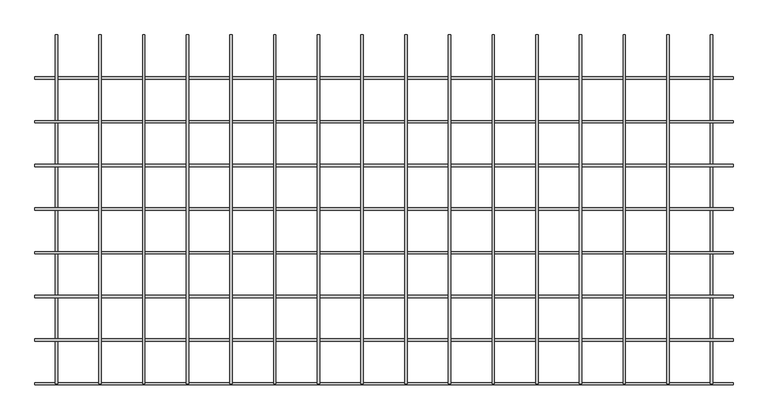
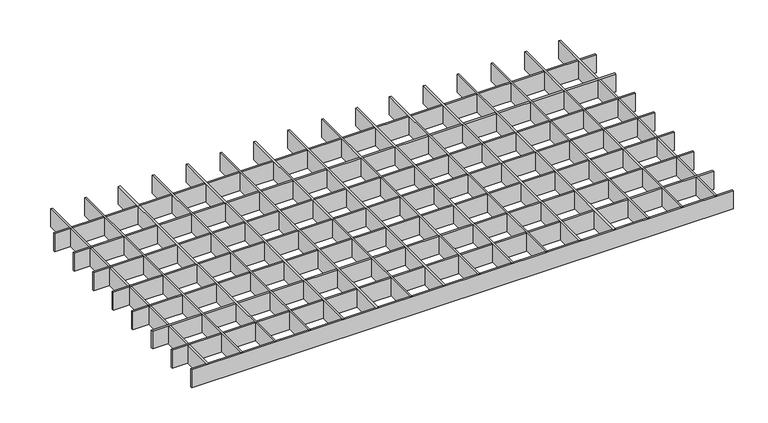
"""IFC4 building model written with IfcOpenShell, lengths in millimetres: proxy geometry, durlum_GEO_panel : durlum_GEO_4."""

from ifc_helpers import new_model, si_unit, origin, origin_with_axes, place, context, project, spatial, polyline, outline, extrude, source, transform, mapped, element, save


def generic_models_99cc4506(model_context):
    return source(origin(), model_context, "Body", "SweptSolid", [
        extrude(outline(polyline([(485.5, 299.5), (489.5, 299.5), (489.5, -299.5), (485.5, -299.5), (485.5, 299.5)])), origin_with_axes(), (0.0, 0.0, 1.0), 42.0),
        extrude(outline(polyline([(410.5, 299.5), (414.5, 299.5), (414.5, -299.5), (410.5, -299.5), (410.5, 299.5)])), origin_with_axes(), (0.0, 0.0, 1.0), 42.0),
        extrude(outline(polyline([(335.5, 299.5), (339.5, 299.5), (339.5, -299.5), (335.5, -299.5), (335.5, 299.5)])), origin_with_axes(), (0.0, 0.0, 1.0), 42.0),
        extrude(outline(polyline([(260.5, 299.5), (264.5, 299.5), (264.5, -299.5), (260.5, -299.5), (260.5, 299.5)])), origin_with_axes(), (0.0, 0.0, 1.0), 42.0),
        extrude(outline(polyline([(185.5, 299.5), (189.5, 299.5), (189.5, -299.5), (185.5, -299.5), (185.5, 299.5)])), origin_with_axes(), (0.0, 0.0, 1.0), 42.0),
        extrude(outline(polyline([(110.5, 299.5), (114.5, 299.5), (114.5, -299.5), (110.5, -299.5), (110.5, 299.5)])), origin_with_axes(), (0.0, 0.0, 1.0), 42.0),
        extrude(outline(polyline([(35.5, 299.5), (39.5, 299.5), (39.5, -299.5), (35.5, -299.5), (35.5, 299.5)])), origin_with_axes(), (0.0, 0.0, 1.0), 42.0),
        extrude(outline(polyline([(-39.5, 299.5), (-35.5, 299.5), (-35.5, -299.5), (-39.5, -299.5), (-39.5, 299.5)])), origin_with_axes(), (0.0, 0.0, 1.0), 42.0),
        extrude(outline(polyline([(-114.5, 299.5), (-110.5, 299.5), (-110.5, -299.5), (-114.5, -299.5), (-114.5, 299.5)])), origin_with_axes(), (0.0, 0.0, 1.0), 42.0),
        extrude(outline(polyline([(-189.5, 299.5), (-185.5, 299.5), (-185.5, -299.5), (-189.5, -299.5), (-189.5, 299.5)])), origin_with_axes(), (0.0, 0.0, 1.0), 42.0),
        extrude(outline(polyline([(-264.5, 299.5), (-260.5, 299.5), (-260.5, -299.5), (-264.5, -299.5), (-264.5, 299.5)])), origin_with_axes(), (0.0, 0.0, 1.0), 42.0),
        extrude(outline(polyline([(-339.5, 299.5), (-335.5, 299.5), (-335.5, -299.5), (-339.5, -299.5), (-339.5, 299.5)])), origin_with_axes(), (0.0, 0.0, 1.0), 42.0),
        extrude(outline(polyline([(-414.5, 299.5), (-410.5, 299.5), (-410.5, -299.5), (-414.5, -299.5), (-414.5, 299.5)])), origin_with_axes(), (0.0, 0.0, 1.0), 42.0),
        extrude(outline(polyline([(-489.5, 299.5), (-485.5, 299.5), (-485.5, -299.5), (-489.5, -299.5), (-489.5, 299.5)])), origin_with_axes(), (0.0, 0.0, 1.0), 42.0),
        extrude(outline(polyline([(599.5, -222.5), (599.5, -226.5), (-599.5, -226.5), (-599.5, -222.5), (599.5, -222.5)])), origin_with_axes(), (0.0, 0.0, 1.0), 42.0),
        extrude(outline(polyline([(599.5, -147.5), (599.5, -151.5), (-599.5, -151.5), (-599.5, -147.5), (599.5, -147.5)])), origin_with_axes(), (0.0, 0.0, 1.0), 42.0),
        extrude(outline(polyline([(599.5, -72.5), (599.5, -76.5), (-599.5, -76.5), (-599.5, -72.5), (599.5, -72.5)])), origin_with_axes(), (0.0, 0.0, 1.0), 42.0),
        extrude(outline(polyline([(599.5, 2.5), (599.5, -1.5), (-599.5, -1.5), (-599.5, 2.5), (599.5, 2.5)])), origin_with_axes(), (0.0, 0.0, 1.0), 42.0),
        extrude(outline(polyline([(599.5, 77.5), (599.5, 73.5), (-599.5, 73.5), (-599.5, 77.5), (599.5, 77.5)])), origin_with_axes(), (0.0, 0.0, 1.0), 42.0),
        extrude(outline(polyline([(599.5, 152.5), (599.5, 148.5), (-599.5, 148.5), (-599.5, 152.5), (599.5, 152.5)])), origin_with_axes(), (0.0, 0.0, 1.0), 42.0),
        extrude(outline(polyline([(560.5, 299.5), (564.5, 299.5), (564.5, -299.5), (560.5, -299.5), (560.5, 299.5)])), origin_with_axes(), (0.0, 0.0, 1.0), 42.0),
        extrude(outline(polyline([(-564.5, 299.5), (-560.5, 299.5), (-560.5, -299.5), (-564.5, -299.5), (-564.5, 299.5)])), origin_with_axes(), (0.0, 0.0, 1.0), 42.0),
        extrude(outline(polyline([(599.5, -297.5), (599.5, -301.5), (-599.5, -301.5), (-599.5, -297.5), (599.5, -297.5)])), origin_with_axes(), (0.0, 0.0, 1.0), 42.0),
        extrude(outline(polyline([(599.5, 227.5), (599.5, 223.5), (-599.5, 223.5), (-599.5, 227.5), (599.5, 227.5)])), origin_with_axes(), (0.0, 0.0, 1.0), 42.0),
    ])


if __name__ == "__main__":
    model = new_model("IFC4")
    model_context = context("Model", 3, world=origin())
    ifc_project = project(units=[si_unit("LENGTHUNIT", "METRE", prefix="MILLI")], contexts=[model_context])
    site = spatial("IfcSite", under=ifc_project)
    building = spatial("IfcBuilding", under=site)
    placement = place(None, origin())
    generic_models_shape = generic_models_99cc4506(model_context)
    element("IfcBuildingElementProxy", 1, Name="durlum_GEO_panel : durlum_GEO_4", ObjectType="durlum_GEO_panel : durlum_GEO_4", at=placement, inside=building, context=model_context, shape_type="MappedRepresentation", body=[
        mapped(generic_models_shape, transform((0.0, 0.0, 0.0), x_axis=(1.0, 0.0, 0.0), y_axis=(0.0, 1.0, 0.0), z_axis=(0.0, 0.0, 1.0))),
    ])
    save(model, "model.ifc")
